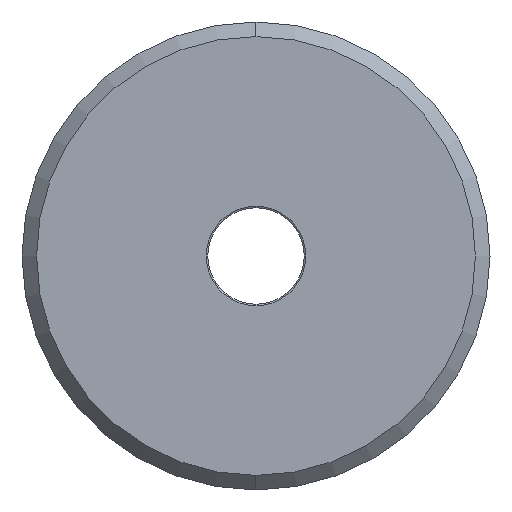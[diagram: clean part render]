
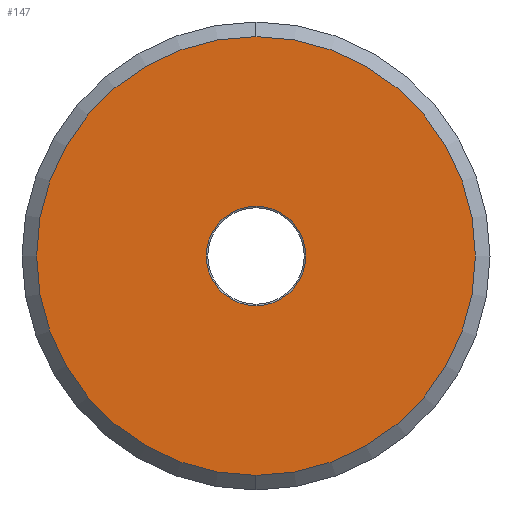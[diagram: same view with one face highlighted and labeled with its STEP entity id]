
A CAD part, left-side view. The second image highlights one B-rep face of the part: STEP entity #147.
In plain terms, the highlighted planar face has unit normal (-1, 0, 0).
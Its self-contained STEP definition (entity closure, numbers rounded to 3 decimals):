
#4 = DIRECTION ( 'NONE',  ( 0., 0., 1. ) ) ;
#11 = AXIS2_PLACEMENT_3D ( 'NONE', #418, #327, #168 ) ;
#43 = CARTESIAN_POINT ( 'NONE',  ( 0., 0., 0. ) ) ;
#51 = AXIS2_PLACEMENT_3D ( 'NONE', #106, #430, #226 ) ;
#52 = AXIS2_PLACEMENT_3D ( 'NONE', #504, #269, #101 ) ;
#59 = VERTEX_POINT ( 'NONE', #194 ) ;
#74 = ORIENTED_EDGE ( 'NONE', *, *, #523, .F. ) ;
#80 = VERTEX_POINT ( 'NONE', #222 ) ;
#83 = PLANE ( 'NONE',  #458 ) ;
#101 = DIRECTION ( 'NONE',  ( 0., 0., 1. ) ) ;
#106 = CARTESIAN_POINT ( 'NONE',  ( 0., 0., 0. ) ) ;
#123 = EDGE_CURVE ( 'NONE', #279, #80, #417, .T. ) ;
#147 = ADVANCED_FACE ( 'NONE', ( #362, #288 ), #83, .T. ) ;
#168 = DIRECTION ( 'NONE',  ( 0., 0., 1. ) ) ;
#179 = EDGE_CURVE ( 'NONE', #258, #59, #467, .T. ) ;
#194 = CARTESIAN_POINT ( 'NONE',  ( 0., 0., -3.4 ) ) ;
#206 = DIRECTION ( 'NONE',  ( -1., 0., 0. ) ) ;
#217 = CARTESIAN_POINT ( 'NONE',  ( 0., 0., 0. ) ) ;
#222 = CARTESIAN_POINT ( 'NONE',  ( 0., 0., -15. ) ) ;
#226 = DIRECTION ( 'NONE',  ( 0., 0., 1. ) ) ;
#235 = EDGE_LOOP ( 'NONE', ( #294, #248 ) ) ;
#248 = ORIENTED_EDGE ( 'NONE', *, *, #123, .T. ) ;
#253 = EDGE_CURVE ( 'NONE', #80, #279, #373, .T. ) ;
#258 = VERTEX_POINT ( 'NONE', #425 ) ;
#269 = DIRECTION ( 'NONE',  ( -1., 0., 0. ) ) ;
#279 = VERTEX_POINT ( 'NONE', #477 ) ;
#282 = CIRCLE ( 'NONE', #51, 3.4 ) ;
#288 = FACE_BOUND ( 'NONE', #320, .T. ) ;
#294 = ORIENTED_EDGE ( 'NONE', *, *, #253, .T. ) ;
#320 = EDGE_LOOP ( 'NONE', ( #453, #74 ) ) ;
#327 = DIRECTION ( 'NONE',  ( -1., 0., 0. ) ) ;
#362 = FACE_OUTER_BOUND ( 'NONE', #235, .T. ) ;
#373 = CIRCLE ( 'NONE', #448, 15. ) ;
#417 = CIRCLE ( 'NONE', #11, 15. ) ;
#418 = CARTESIAN_POINT ( 'NONE',  ( 0., 0., 0. ) ) ;
#425 = CARTESIAN_POINT ( 'NONE',  ( 0., 0., 3.4 ) ) ;
#430 = DIRECTION ( 'NONE',  ( -1., 0., 0. ) ) ;
#432 = DIRECTION ( 'NONE',  ( 0., 0., 1. ) ) ;
#448 = AXIS2_PLACEMENT_3D ( 'NONE', #217, #466, #432 ) ;
#453 = ORIENTED_EDGE ( 'NONE', *, *, #179, .F. ) ;
#458 = AXIS2_PLACEMENT_3D ( 'NONE', #43, #206, #4 ) ;
#466 = DIRECTION ( 'NONE',  ( -1., 0., 0. ) ) ;
#467 = CIRCLE ( 'NONE', #52, 3.4 ) ;
#477 = CARTESIAN_POINT ( 'NONE',  ( 0., 0., 15. ) ) ;
#504 = CARTESIAN_POINT ( 'NONE',  ( 0., 0., 0. ) ) ;
#523 = EDGE_CURVE ( 'NONE', #59, #258, #282, .T. ) ;
